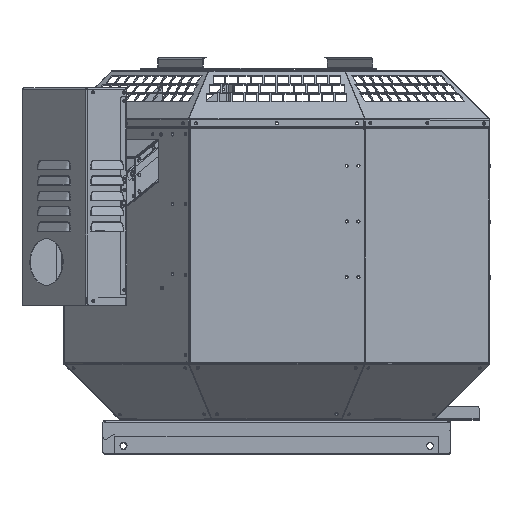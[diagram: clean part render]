
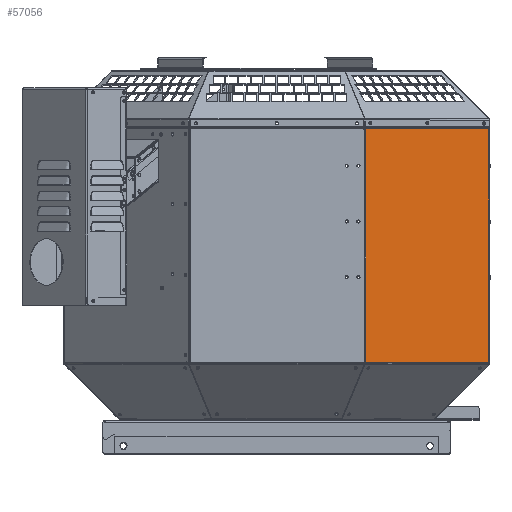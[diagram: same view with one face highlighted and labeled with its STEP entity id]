
A CAD part, top view. The second image highlights one B-rep face of the part: STEP entity #57056.
In plain terms, the highlighted planar face has unit normal (0.707, 0, 0.707).
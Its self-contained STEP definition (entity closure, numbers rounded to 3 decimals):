
#622 = VECTOR ( 'NONE', #60459, 1000. ) ;
#3711 = VECTOR ( 'NONE', #100074, 1000. ) ;
#4246 = EDGE_CURVE ( 'NONE', #107036, #16092, #55255, .T. ) ;
#5416 = ORIENTED_EDGE ( 'NONE', *, *, #15397, .F. ) ;
#6746 = CARTESIAN_POINT ( 'NONE',  ( 283.245, 408.402, 119.099 ) ) ;
#8085 = CARTESIAN_POINT ( 'NONE',  ( 119.099, 422.402, 283.245 ) ) ;
#9126 = VERTEX_POINT ( 'NONE', #75782 ) ;
#10876 = CARTESIAN_POINT ( 'NONE',  ( 119.099, 410.409, 283.245 ) ) ;
#10963 = ORIENTED_EDGE ( 'NONE', *, *, #101701, .T. ) ;
#13509 = PLANE ( 'NONE',  #25665 ) ;
#13683 = CARTESIAN_POINT ( 'NONE',  ( 283.563, 97.802, 118.781 ) ) ;
#13948 = VECTOR ( 'NONE', #48085, 1000. ) ;
#15397 = EDGE_CURVE ( 'NONE', #111305, #86399, #66360, .T. ) ;
#15605 = DIRECTION ( 'NONE',  ( -0.707, 0., 0.707 ) ) ;
#15914 = CARTESIAN_POINT ( 'NONE',  ( 118.781, 422.402, 283.563 ) ) ;
#16092 = VERTEX_POINT ( 'NONE', #13683 ) ;
#16645 = EDGE_CURVE ( 'NONE', #58366, #99388, #104636, .T. ) ;
#18963 = LINE ( 'NONE', #15914, #57578 ) ;
#21590 = VERTEX_POINT ( 'NONE', #55111 ) ;
#22345 = DIRECTION ( 'NONE',  ( 0.707, 0., 0.707 ) ) ;
#25665 = AXIS2_PLACEMENT_3D ( 'NONE', #48545, #22345, #83860 ) ;
#27740 = CARTESIAN_POINT ( 'NONE',  ( 283.563, 408.402, 118.781 ) ) ;
#29081 = VECTOR ( 'NONE', #52118, 1000. ) ;
#29768 = CARTESIAN_POINT ( 'NONE',  ( 283.245, 422.402, 119.099 ) ) ;
#34774 = CARTESIAN_POINT ( 'NONE',  ( 283.563, 422.402, 118.781 ) ) ;
#35615 = ORIENTED_EDGE ( 'NONE', *, *, #105315, .T. ) ;
#37753 = LINE ( 'NONE', #109591, #55647 ) ;
#44317 = ORIENTED_EDGE ( 'NONE', *, *, #58493, .T. ) ;
#44447 = ORIENTED_EDGE ( 'NONE', *, *, #4246, .F. ) ;
#44559 = LINE ( 'NONE', #6746, #88525 ) ;
#45011 = DIRECTION ( 'NONE',  ( 0.707, 0., -0.707 ) ) ;
#47482 = LINE ( 'NONE', #8085, #622 ) ;
#48085 = DIRECTION ( 'NONE',  ( -0.707, 0., 0.707 ) ) ;
#48545 = CARTESIAN_POINT ( 'NONE',  ( 284.207, 422.402, 118.137 ) ) ;
#51309 = ORIENTED_EDGE ( 'NONE', *, *, #66628, .T. ) ;
#52118 = DIRECTION ( 'NONE',  ( 0., -1., 0. ) ) ;
#52262 = EDGE_CURVE ( 'NONE', #16092, #21590, #37753, .T. ) ;
#53278 = LINE ( 'NONE', #29768, #3711 ) ;
#55111 = CARTESIAN_POINT ( 'NONE',  ( 118.781, 97.802, 283.563 ) ) ;
#55255 = LINE ( 'NONE', #34774, #29081 ) ;
#55647 = VECTOR ( 'NONE', #83168, 1000. ) ;
#57056 = ADVANCED_FACE ( 'NONE', ( #110978 ), #13509, .T. ) ;
#57578 = VECTOR ( 'NONE', #86261, 1000. ) ;
#58366 = VERTEX_POINT ( 'NONE', #93901 ) ;
#58493 = EDGE_CURVE ( 'NONE', #111305, #58366, #47482, .T. ) ;
#60459 = DIRECTION ( 'NONE',  ( 0., -1., 0. ) ) ;
#63893 = ORIENTED_EDGE ( 'NONE', *, *, #52262, .F. ) ;
#66360 = LINE ( 'NONE', #101443, #110241 ) ;
#66628 = EDGE_CURVE ( 'NONE', #9126, #86399, #53278, .T. ) ;
#73311 = CARTESIAN_POINT ( 'NONE',  ( 119.099, 408.402, 283.245 ) ) ;
#75782 = CARTESIAN_POINT ( 'NONE',  ( 283.245, 408.402, 119.099 ) ) ;
#82148 = ORIENTED_EDGE ( 'NONE', *, *, #16645, .T. ) ;
#83168 = DIRECTION ( 'NONE',  ( -0.707, 0., 0.707 ) ) ;
#83860 = DIRECTION ( 'NONE',  ( 0.707, 0., -0.707 ) ) ;
#86261 = DIRECTION ( 'NONE',  ( 0., -1., 0. ) ) ;
#86399 = VERTEX_POINT ( 'NONE', #110003 ) ;
#88525 = VECTOR ( 'NONE', #15605, 1000. ) ;
#93901 = CARTESIAN_POINT ( 'NONE',  ( 119.099, 408.402, 283.245 ) ) ;
#99388 = VERTEX_POINT ( 'NONE', #109689 ) ;
#100074 = DIRECTION ( 'NONE',  ( 0., 1., 0. ) ) ;
#101443 = CARTESIAN_POINT ( 'NONE',  ( 284.207, 410.409, 118.137 ) ) ;
#101701 = EDGE_CURVE ( 'NONE', #99388, #21590, #18963, .T. ) ;
#104636 = LINE ( 'NONE', #73311, #13948 ) ;
#104765 = EDGE_LOOP ( 'NONE', ( #5416, #44317, #82148, #10963, #63893, #44447, #35615, #51309 ) ) ;
#105315 = EDGE_CURVE ( 'NONE', #107036, #9126, #44559, .T. ) ;
#107036 = VERTEX_POINT ( 'NONE', #27740 ) ;
#109591 = CARTESIAN_POINT ( 'NONE',  ( 284.207, 97.802, 118.137 ) ) ;
#109689 = CARTESIAN_POINT ( 'NONE',  ( 118.781, 408.402, 283.563 ) ) ;
#110003 = CARTESIAN_POINT ( 'NONE',  ( 283.245, 410.409, 119.099 ) ) ;
#110241 = VECTOR ( 'NONE', #45011, 1000. ) ;
#110978 = FACE_OUTER_BOUND ( 'NONE', #104765, .T. ) ;
#111305 = VERTEX_POINT ( 'NONE', #10876 ) ;
